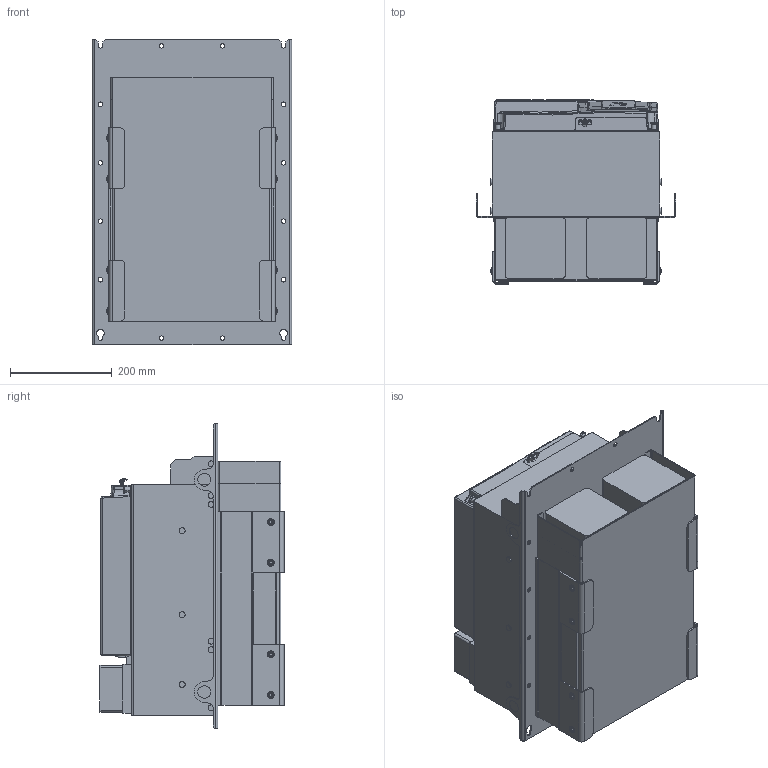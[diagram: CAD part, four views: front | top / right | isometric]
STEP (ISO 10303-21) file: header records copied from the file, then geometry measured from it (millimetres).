
FILE_DESCRIPTION (( 'STEP AP214' ), '1' );
FILE_NAME ('10061524_000.STEP', '2022-11-16T11:17:13', ( '' ), ( '' ), 'SwSTEP 2.0', 'SolidWorks 2022', '' );
FILE_SCHEMA (( 'AUTOMOTIVE_DESIGN' ));
Length unit declared in the file: millimetre
Products named in the file (15): Kundenmodell^10044088_000; Kundenmodell^10045475_000_Gehäusebaugruppe mit Lüfterkarte; 10059764_000_Blindabdeckung (Kundenmodell); Kundenmodell^10061502_000; 10061502_000_Deckel (Kundenmodell); 10045475_000_Gehäusebaugruppe F6-7 +Lüfterkarte (Kundenmodell); Kundenmodell^10035736_000; Kundenmodell Leistungsteil F6-7 TR5^10061514_000; 10061524_000; 10061514_000_F6-7 Leistungsteil TR5 (Kundenmodell); Kundenmodell^10059764_000; 10035736_000_Kundenmodell; Kundenmodell^10043622_000; 10043622_000_70F6 Klemme (Kundenmodell); 10044088_000_Kundenmodell
Assembly tree (14 placements, depth 4):
  10061524_000
    10061514_000_F6-7 Leistungsteil TR5 (Kundenmodell)
      10043622_000_70F6 Klemme (Kundenmodell)
        Kundenmodell^10043622_000
      Kundenmodell Leistungsteil F6-7 TR5^10061514_000
    10045475_000_Gehäusebaugruppe F6-7 +Lüfterkarte (Kundenmodell)
      10061502_000_Deckel (Kundenmodell)
        Kundenmodell^10061502_000
      10044088_000_Kundenmodell
        Kundenmodell^10044088_000
      Kundenmodell^10045475_000_Gehäusebaugruppe mit Lüfterkarte
    10035736_000_Kundenmodell
      10059764_000_Blindabdeckung (Kundenmodell)
        Kundenmodell^10059764_000
      Kundenmodell^10035736_000
Bounding box: 392 x 361.9 x 600 mm (x, y, z)
Volume: 53683866.3 mm3; surface area: 1893986.1 mm2
Topology: 12 solids, 12 shells, 2292 faces, 5779 edges, 3605 vertices
Faces by surface type: plane 1068, cylinder 727, bspline 286, torus 105, sphere 64, cone 42
Entity records: 112226 total; most frequent: CARTESIAN_POINT 29763, ORIENTED_EDGE 17568, DIRECTION 16215, EDGE_CURVE 8784, VECTOR 5645, LINE 5645, VERTEX_POINT 5487, AXIS2_PLACEMENT_3D 5285
